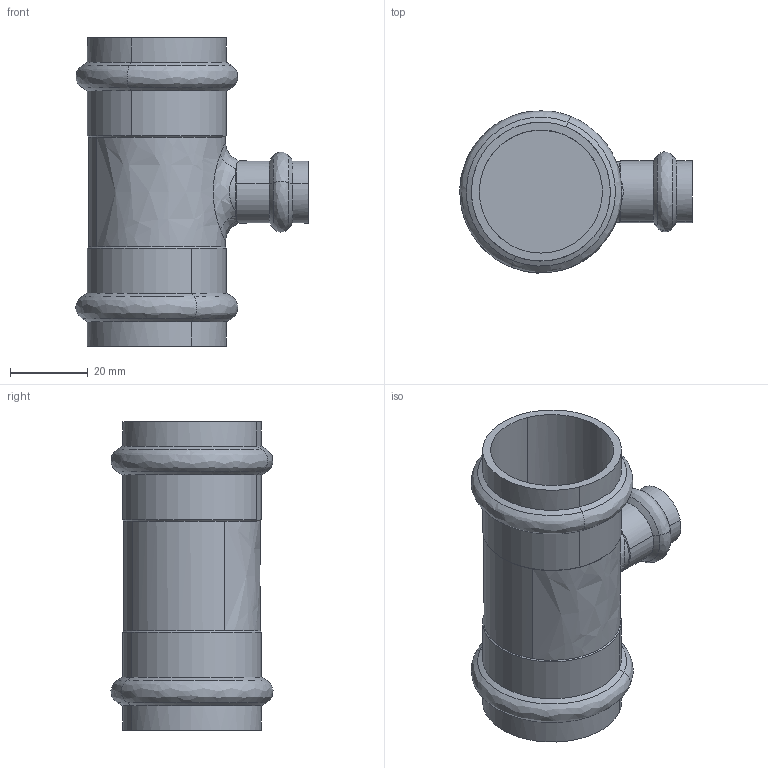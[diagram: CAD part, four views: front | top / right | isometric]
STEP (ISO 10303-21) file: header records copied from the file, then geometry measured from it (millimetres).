
FILE_DESCRIPTION(('STEP AP214'),'1');
FILE_NAME('pim0004522.stp','2015-04-30T06:50:37',('Cad-Pim'),('TransMagic, Inc.'),'TMR11sp0','TransMagic R11',' ');
FILE_SCHEMA(('AUTOMOTIVE_DESIGN'));
Length unit declared in the file: millimetre
Products named in the file (1): pim0004522
Bounding box: 59.9 x 41.77 x 79.5 mm (x, y, z)
Volume: 46190.3 mm3; surface area: 18735.2 mm2
Topology: 1 solids, 1 shells, 57 faces, 155 edges, 103 vertices
Faces by surface type: bspline 20, cylinder 20, cone 17
Entity records: 3192 total; most frequent: CARTESIAN_POINT 1503, ORIENTED_EDGE 310, DIRECTION 194, EDGE_CURVE 155, VERTEX_POINT 103, AXIS2_PLACEMENT_3D 78, EDGE_LOOP 60, STYLED_ITEM 58
